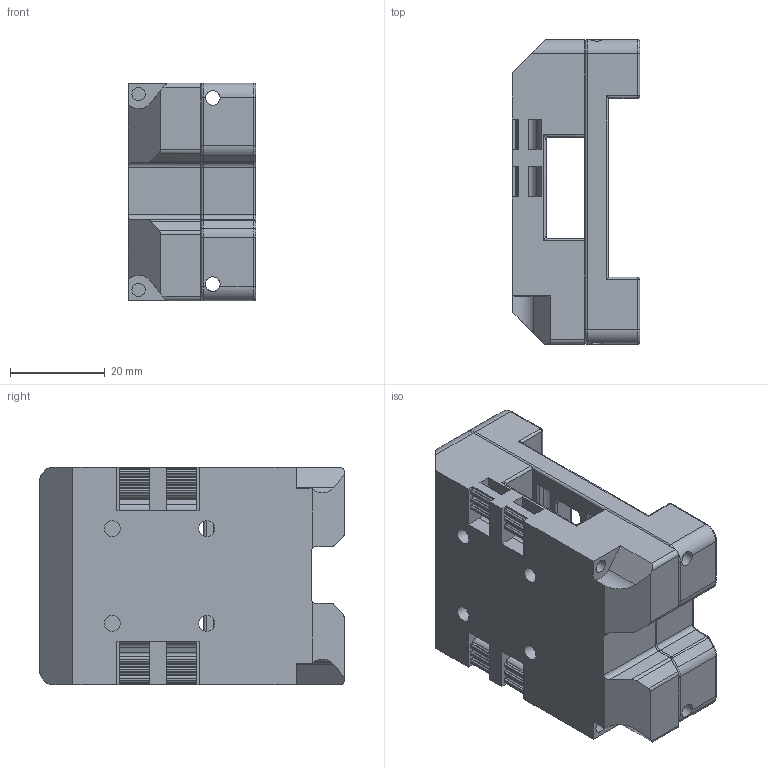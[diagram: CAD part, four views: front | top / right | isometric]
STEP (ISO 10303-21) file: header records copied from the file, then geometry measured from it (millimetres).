
FILE_DESCRIPTION(/* description */ ('','CAx-IF Rec.Pracs.---Representation and Presentation of Product Manufacturing Information (PMI)---4.0---2014-10-13'),/* implementation_level */ '2;1');
FILE_NAME(/* name */ 'Lineux Voron2.4.step',/* time_stamp */ '2024-12-21T14:14:39+07:00',/* author */ (''),/* organization */ (''),/* preprocessor_version */ 'ST-DEVELOPER v20',/* originating_system */ 'Autodesk Translation Framework v13.20.0.188',/* authorisation */ '');
FILE_SCHEMA (('AP242_MANAGED_MODEL_BASED_3D_ENGINEERING_MIM_LF { 1 0 10303 442 1 1 4 }'));
Length unit declared in the file: millimetre
Products named in the file (1): Lineux Voron2.4-Carriage By art
Bounding box: 26.9 x 64.3 x 46 mm (x, y, z)
Volume: 48375.9 mm3; surface area: 21653.1 mm2
Topology: 2 solids, 2 shells, 394 faces, 1042 edges, 653 vertices
Faces by surface type: cylinder 177, plane 174, torus 24, sphere 8, cone 7, bspline 4
Full cylindrical faces by diameter (mm): 2.8 x2, 3.1 x2, 3.4 x7, 4.7 x3, 6.5 x7
Entity records: 12462 total; most frequent: CARTESIAN_POINT 2352, DIRECTION 2183, ORIENTED_EDGE 2076, EDGE_CURVE 1038, AXIS2_PLACEMENT_3D 765, LINE 653, VECTOR 653, VERTEX_POINT 653
